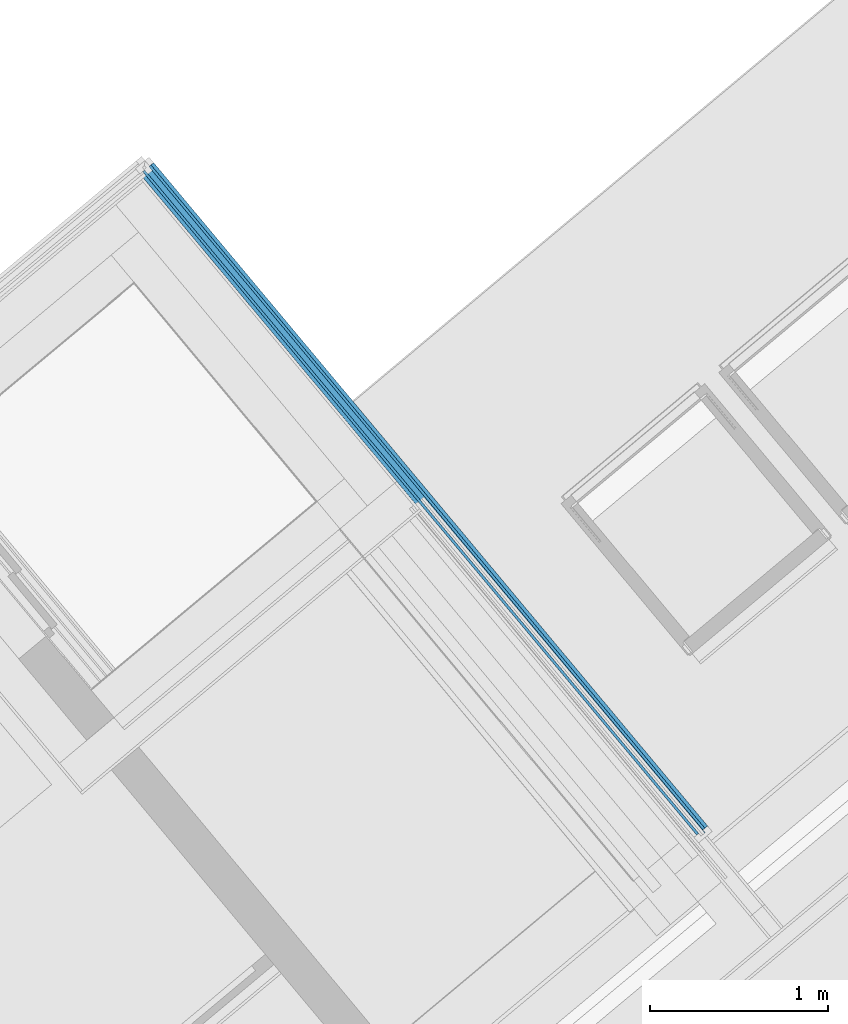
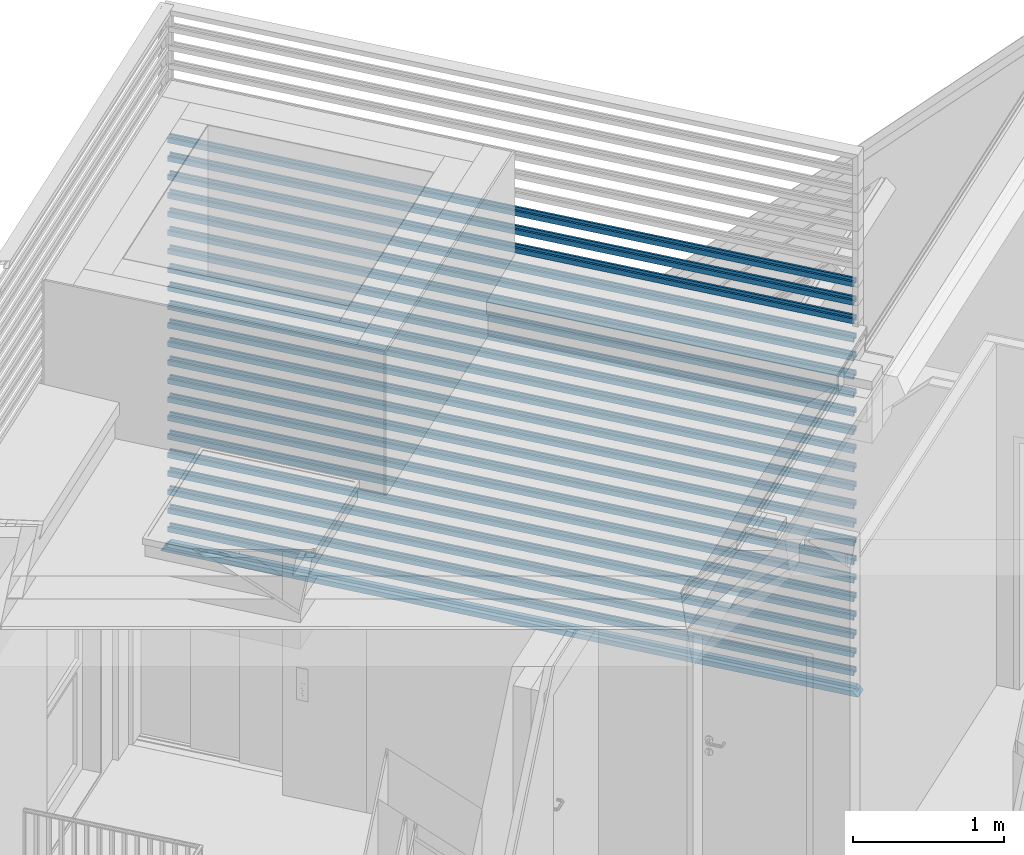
# One storey, part 30 of 50: 23 building element parts, 1 element without a shape of its own.
"""IFC4 building model written with IfcOpenShell, lengths in metres."""

from ifc_helpers import new_model, entity, si_unit, converted_unit, derived_unit, direction, frame, origin_with_axes, place, context, subcontext, project, spatial, polygons, material, type_object, element, aggregate, save


model = new_model("IFC4")

# Units and contexts
model_context = context("Model", 3, precision=1e-05, world=origin_with_axes(), true_north=direction((0.0, 1.0)))
body_context = subcontext(model_context, "Body", "Model", "MODEL_VIEW")
ifc_project = project(units=[si_unit("LENGTHUNIT", "METRE"), si_unit("AREAUNIT", "SQUARE_METRE"), si_unit("VOLUMEUNIT", "CUBIC_METRE"), converted_unit("PLANEANGLEUNIT", "DEGREE", entity("IfcPlaneAngleMeasure", 0.0174532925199), si_unit("PLANEANGLEUNIT", "RADIAN"), dimensions=[0, 0, 0, 0, 0, 0, 0]), converted_unit("TIMEUNIT", "Year", entity("IfcTimeMeasure", 31556926.0), si_unit("TIMEUNIT", "SECOND"), dimensions=[0, 0, 1, 0, 0, 0, 0]), si_unit("MASSUNIT", "GRAM", prefix="KILO"), si_unit("THERMODYNAMICTEMPERATUREUNIT", "DEGREE_CELSIUS"), si_unit("LUMINOUSINTENSITYUNIT", "LUMEN"), si_unit("ENERGYUNIT", "JOULE", prefix="MEGA"), derived_unit("THERMALCONDUCTANCEUNIT", [(si_unit("POWERUNIT", "WATT"), 1), (si_unit("LENGTHUNIT", "METRE"), -1), (si_unit("THERMODYNAMICTEMPERATUREUNIT", "KELVIN"), -1)]), derived_unit("SPECIFICHEATCAPACITYUNIT", [(si_unit("ENERGYUNIT", "JOULE"), 1), (si_unit("MASSUNIT", "GRAM", prefix="KILO"), -1), (si_unit("THERMODYNAMICTEMPERATUREUNIT", "KELVIN"), -1)]), derived_unit("MASSDENSITYUNIT", [(si_unit("MASSUNIT", "GRAM", prefix="KILO"), 1), (si_unit("VOLUMEUNIT", "CUBIC_METRE"), -1)])], contexts=[model_context])

# Site, building, storey, space
site_placement = place(None, frame((-0.00153261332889, -0.00661245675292, 0.0), z_axis=(0.0, 0.0, 1.0), x_axis=(1.0, 0.0, 0.0)))
site = spatial("IfcSite", under=ifc_project, at=site_placement, Name="Gelände", CompositionType="ELEMENT")
building_placement = place(site_placement, origin_with_axes())
building = spatial("IfcBuilding", under=site, at=building_placement, Name="Gebäude", CompositionType="ELEMENT")
storey_placement = place(building_placement, frame((0.0, 0.0, 8.66), z_axis=(0.0, 0.0, 1.0), x_axis=(1.0, 0.0, 0.0)))
storey = spatial("IfcBuildingStorey", under=building, at=storey_placement, Name="DG2", CompositionType="ELEMENT", Elevation=8.66)
space_placement = place(storey_placement, frame((6.83696947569, 22.4856827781, 0.22), z_axis=(0.0, 0.0, 1.0), x_axis=(0.767365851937, 0.641209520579, 0.0)))
space = spatial("IfcSpace", under=storey, at=space_placement, CompositionType="ELEMENT", PredefinedType="NOTDEFINED")

# Curtain wall, building element parts
curtain_wall_type = type_object("IfcCurtainWallType", Name="Fassadentyp", PredefinedType="NOTDEFINED")
curtain_wall_placement = place(space_placement, frame((-0.611260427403, 4.89750550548, 0.1), z_axis=(0.0, 0.0, 1.0), x_axis=(0.767365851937, -0.641209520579, 0.0)))
curtain_wall = element("IfcCurtainWall", 1, at=curtain_wall_placement, inside=space, type_object=curtain_wall_type, Name="Fassade-001", PredefinedType="NOTDEFINED")
ifc_material = material(Name="Blech")
building_element_part_1_placement = place(curtain_wall_placement, origin_with_axes())
building_element_part_1 = element("IfcBuildingElementPart", 2, at=building_element_part_1_placement, material=ifc_material, Name="Blech", PredefinedType="NOTDEFINED", context=body_context, shape_type="Tessellation", body=[
    polygons([(1.55485923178, -1.88503623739, 0.0), (1.54203854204, -1.86968599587, 0.02), (1.51517561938, -1.8921222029, 0.02), (1.54081699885, -1.92282268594, -0.02), (1.61756820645, -1.85871923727, -0.02), (1.59192682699, -1.82801875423, 0.02), (1.56506390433, -1.85045496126, 0.02), (1.57788459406, -1.86580520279, 0.0), (-1.57788459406, 1.86580520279, 0.0), (-1.56506390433, 1.85045496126, 0.02), (-1.59192682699, 1.82801875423, 0.02), (-1.61756820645, 1.85871923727, -0.02), (-1.54081699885, 1.92282268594, -0.02), (-1.51517561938, 1.8921222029, 0.02), (-1.54203854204, 1.86968599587, 0.02), (-1.55485923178, 1.88503623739, 0.0)], [[[1, 2, 3, 4, 5, 6, 7, 8]], [[1, 9, 10, 2]], [[10, 11, 3, 2]], [[3, 11, 12, 4]], [[4, 12, 13, 5]], [[5, 13, 14, 6]], [[7, 6, 14, 15]], [[15, 16, 8, 7]], [[8, 16, 9, 1]], [[9, 16, 15, 14, 13, 12, 11, 10]]], closed=True),
])
building_element_part_2_placement = place(curtain_wall_placement, origin_with_axes())
building_element_part_2 = element("IfcBuildingElementPart", 3, at=building_element_part_2_placement, material=ifc_material, Name="Blech", PredefinedType="NOTDEFINED", context=body_context, shape_type="Tessellation", body=[
    polygons([(-1.56506390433, 1.85045496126, 0.15), (-1.56506390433, 1.85045496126, 0.17), (1.54203854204, -1.86968599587, 0.17), (1.54203854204, -1.86968599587, 0.15), (1.54203854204, -1.86968599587, 0.13), (-1.56506390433, 1.85045496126, 0.13), (-1.57657658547, 1.84083944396, 0.13), (-1.57657658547, 1.84083944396, 0.17), (1.5305258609, -1.87930151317, 0.17), (1.5305258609, -1.87930151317, 0.13)], [[[1, 2, 3, 4, 5, 6]], [[6, 7, 8, 2, 1]], [[3, 2, 8, 9]], [[4, 3, 9, 10, 5]], [[5, 10, 7, 6]], [[10, 9, 8, 7]]], closed=True),
    polygons([(1.56506390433, -1.85045496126, 0.13), (1.57657658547, -1.84083944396, 0.13), (1.57657658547, -1.84083944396, 0.17), (1.56506390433, -1.85045496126, 0.17), (1.56506390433, -1.85045496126, 0.15), (-1.54203854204, 1.86968599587, 0.13), (-1.5305258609, 1.87930151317, 0.13), (-1.5305258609, 1.87930151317, 0.17), (-1.54203854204, 1.86968599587, 0.17), (-1.54203854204, 1.86968599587, 0.15)], [[[1, 2, 3, 4, 5]], [[6, 7, 2, 1]], [[3, 2, 7, 8]], [[9, 4, 3, 8]], [[5, 4, 9, 10, 6, 1]], [[10, 9, 8, 7, 6]]], closed=True),
])
building_element_part_3_placement = place(curtain_wall_placement, origin_with_axes())
building_element_part_3 = element("IfcBuildingElementPart", 4, at=building_element_part_3_placement, material=ifc_material, Name="Blech", PredefinedType="NOTDEFINED", context=body_context, shape_type="Tessellation", body=[
    polygons([(-1.56506390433, 1.85045496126, 0.3), (-1.56506390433, 1.85045496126, 0.32), (1.54203854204, -1.86968599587, 0.32), (1.54203854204, -1.86968599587, 0.3), (1.54203854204, -1.86968599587, 0.28), (-1.56506390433, 1.85045496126, 0.28), (-1.57657658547, 1.84083944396, 0.28), (-1.57657658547, 1.84083944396, 0.32), (1.5305258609, -1.87930151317, 0.32), (1.5305258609, -1.87930151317, 0.28)], [[[1, 2, 3, 4, 5, 6]], [[6, 7, 8, 2, 1]], [[3, 2, 8, 9]], [[4, 3, 9, 10, 5]], [[5, 10, 7, 6]], [[10, 9, 8, 7]]], closed=True),
    polygons([(1.56506390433, -1.85045496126, 0.28), (1.57657658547, -1.84083944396, 0.28), (1.57657658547, -1.84083944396, 0.32), (1.56506390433, -1.85045496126, 0.32), (1.56506390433, -1.85045496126, 0.3), (-1.54203854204, 1.86968599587, 0.28), (-1.5305258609, 1.87930151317, 0.28), (-1.5305258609, 1.87930151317, 0.32), (-1.54203854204, 1.86968599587, 0.32), (-1.54203854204, 1.86968599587, 0.3)], [[[1, 2, 3, 4, 5]], [[6, 7, 2, 1]], [[3, 2, 7, 8]], [[9, 4, 3, 8]], [[5, 4, 9, 10, 6, 1]], [[10, 9, 8, 7, 6]]], closed=True),
])
building_element_part_4_placement = place(curtain_wall_placement, origin_with_axes())
building_element_part_4 = element("IfcBuildingElementPart", 5, at=building_element_part_4_placement, material=ifc_material, Name="Blech", PredefinedType="NOTDEFINED", context=body_context, shape_type="Tessellation", body=[
    polygons([(-1.56506390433, 1.85045496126, 0.45), (-1.56506390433, 1.85045496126, 0.47), (1.54203854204, -1.86968599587, 0.47), (1.54203854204, -1.86968599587, 0.45), (1.54203854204, -1.86968599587, 0.43), (-1.56506390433, 1.85045496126, 0.43), (-1.57657658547, 1.84083944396, 0.43), (-1.57657658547, 1.84083944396, 0.47), (1.5305258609, -1.87930151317, 0.47), (1.5305258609, -1.87930151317, 0.43)], [[[1, 2, 3, 4, 5, 6]], [[6, 7, 8, 2, 1]], [[3, 2, 8, 9]], [[4, 3, 9, 10, 5]], [[5, 10, 7, 6]], [[10, 9, 8, 7]]], closed=True),
    polygons([(1.56506390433, -1.85045496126, 0.43), (1.57657658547, -1.84083944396, 0.43), (1.57657658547, -1.84083944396, 0.47), (1.56506390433, -1.85045496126, 0.47), (1.56506390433, -1.85045496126, 0.45), (-1.54203854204, 1.86968599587, 0.43), (-1.5305258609, 1.87930151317, 0.43), (-1.5305258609, 1.87930151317, 0.47), (-1.54203854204, 1.86968599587, 0.47), (-1.54203854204, 1.86968599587, 0.45)], [[[1, 2, 3, 4, 5]], [[6, 7, 2, 1]], [[3, 2, 7, 8]], [[9, 4, 3, 8]], [[5, 4, 9, 10, 6, 1]], [[10, 9, 8, 7, 6]]], closed=True),
])
building_element_part_5_placement = place(curtain_wall_placement, origin_with_axes())
building_element_part_5 = element("IfcBuildingElementPart", 6, at=building_element_part_5_placement, material=ifc_material, Name="Blech", PredefinedType="NOTDEFINED", context=body_context, shape_type="Tessellation", body=[
    polygons([(-1.56506390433, 1.85045496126, 0.6), (-1.56506390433, 1.85045496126, 0.62), (1.54203854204, -1.86968599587, 0.62), (1.54203854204, -1.86968599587, 0.6), (1.54203854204, -1.86968599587, 0.58), (-1.56506390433, 1.85045496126, 0.58), (-1.57657658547, 1.84083944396, 0.58), (-1.57657658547, 1.84083944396, 0.62), (1.5305258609, -1.87930151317, 0.62), (1.5305258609, -1.87930151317, 0.58)], [[[1, 2, 3, 4, 5, 6]], [[6, 7, 8, 2, 1]], [[3, 2, 8, 9]], [[4, 3, 9, 10, 5]], [[5, 10, 7, 6]], [[10, 9, 8, 7]]], closed=True),
    polygons([(1.56506390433, -1.85045496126, 0.58), (1.57657658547, -1.84083944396, 0.58), (1.57657658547, -1.84083944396, 0.62), (1.56506390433, -1.85045496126, 0.62), (1.56506390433, -1.85045496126, 0.6), (-1.54203854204, 1.86968599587, 0.58), (-1.5305258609, 1.87930151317, 0.58), (-1.5305258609, 1.87930151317, 0.62), (-1.54203854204, 1.86968599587, 0.62), (-1.54203854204, 1.86968599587, 0.6)], [[[1, 2, 3, 4, 5]], [[6, 7, 2, 1]], [[3, 2, 7, 8]], [[9, 4, 3, 8]], [[5, 4, 9, 10, 6, 1]], [[10, 9, 8, 7, 6]]], closed=True),
])
building_element_part_6_placement = place(curtain_wall_placement, origin_with_axes())
building_element_part_6 = element("IfcBuildingElementPart", 7, at=building_element_part_6_placement, material=ifc_material, Name="Blech", PredefinedType="NOTDEFINED", context=body_context, shape_type="Tessellation", body=[
    polygons([(-1.56506390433, 1.85045496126, 0.75), (-1.56506390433, 1.85045496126, 0.77), (1.54203854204, -1.86968599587, 0.77), (1.54203854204, -1.86968599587, 0.75), (1.54203854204, -1.86968599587, 0.73), (-1.56506390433, 1.85045496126, 0.73), (-1.57657658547, 1.84083944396, 0.73), (-1.57657658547, 1.84083944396, 0.77), (1.5305258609, -1.87930151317, 0.77), (1.5305258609, -1.87930151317, 0.73)], [[[1, 2, 3, 4, 5, 6]], [[6, 7, 8, 2, 1]], [[3, 2, 8, 9]], [[4, 3, 9, 10, 5]], [[5, 10, 7, 6]], [[10, 9, 8, 7]]], closed=True),
    polygons([(1.56506390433, -1.85045496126, 0.73), (1.57657658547, -1.84083944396, 0.73), (1.57657658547, -1.84083944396, 0.77), (1.56506390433, -1.85045496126, 0.77), (1.56506390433, -1.85045496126, 0.75), (-1.54203854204, 1.86968599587, 0.73), (-1.5305258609, 1.87930151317, 0.73), (-1.5305258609, 1.87930151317, 0.77), (-1.54203854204, 1.86968599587, 0.77), (-1.54203854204, 1.86968599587, 0.75)], [[[1, 2, 3, 4, 5]], [[6, 7, 2, 1]], [[3, 2, 7, 8]], [[9, 4, 3, 8]], [[5, 4, 9, 10, 6, 1]], [[10, 9, 8, 7, 6]]], closed=True),
])
building_element_part_7_placement = place(curtain_wall_placement, origin_with_axes())
building_element_part_7 = element("IfcBuildingElementPart", 8, at=building_element_part_7_placement, material=ifc_material, Name="Blech", PredefinedType="NOTDEFINED", context=body_context, shape_type="Tessellation", body=[
    polygons([(-1.56506390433, 1.85045496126, 0.9), (-1.56506390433, 1.85045496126, 0.92), (1.54203854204, -1.86968599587, 0.92), (1.54203854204, -1.86968599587, 0.9), (1.54203854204, -1.86968599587, 0.88), (-1.56506390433, 1.85045496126, 0.88), (-1.57657658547, 1.84083944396, 0.88), (-1.57657658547, 1.84083944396, 0.92), (1.5305258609, -1.87930151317, 0.92), (1.5305258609, -1.87930151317, 0.88)], [[[1, 2, 3, 4, 5, 6]], [[6, 7, 8, 2, 1]], [[3, 2, 8, 9]], [[4, 3, 9, 10, 5]], [[5, 10, 7, 6]], [[10, 9, 8, 7]]], closed=True),
    polygons([(1.56506390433, -1.85045496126, 0.88), (1.57657658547, -1.84083944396, 0.88), (1.57657658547, -1.84083944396, 0.92), (1.56506390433, -1.85045496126, 0.92), (1.56506390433, -1.85045496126, 0.9), (-1.54203854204, 1.86968599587, 0.88), (-1.5305258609, 1.87930151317, 0.88), (-1.5305258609, 1.87930151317, 0.92), (-1.54203854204, 1.86968599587, 0.92), (-1.54203854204, 1.86968599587, 0.9)], [[[1, 2, 3, 4, 5]], [[6, 7, 2, 1]], [[3, 2, 7, 8]], [[9, 4, 3, 8]], [[5, 4, 9, 10, 6, 1]], [[10, 9, 8, 7, 6]]], closed=True),
])
building_element_part_8_placement = place(curtain_wall_placement, origin_with_axes())
building_element_part_8 = element("IfcBuildingElementPart", 9, at=building_element_part_8_placement, material=ifc_material, Name="Blech", PredefinedType="NOTDEFINED", context=body_context, shape_type="Tessellation", body=[
    polygons([(-1.56506390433, 1.85045496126, 1.05), (-1.56506390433, 1.85045496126, 1.07), (1.54203854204, -1.86968599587, 1.07), (1.54203854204, -1.86968599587, 1.05), (1.54203854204, -1.86968599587, 1.03), (-1.56506390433, 1.85045496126, 1.03), (-1.57657658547, 1.84083944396, 1.03), (-1.57657658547, 1.84083944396, 1.07), (1.5305258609, -1.87930151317, 1.07), (1.5305258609, -1.87930151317, 1.03)], [[[1, 2, 3, 4, 5, 6]], [[6, 7, 8, 2, 1]], [[3, 2, 8, 9]], [[4, 3, 9, 10, 5]], [[5, 10, 7, 6]], [[10, 9, 8, 7]]], closed=True),
    polygons([(1.56506390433, -1.85045496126, 1.03), (1.57657658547, -1.84083944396, 1.03), (1.57657658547, -1.84083944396, 1.07), (1.56506390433, -1.85045496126, 1.07), (1.56506390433, -1.85045496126, 1.05), (-1.54203854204, 1.86968599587, 1.03), (-1.5305258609, 1.87930151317, 1.03), (-1.5305258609, 1.87930151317, 1.07), (-1.54203854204, 1.86968599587, 1.07), (-1.54203854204, 1.86968599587, 1.05)], [[[1, 2, 3, 4, 5]], [[6, 7, 2, 1]], [[3, 2, 7, 8]], [[9, 4, 3, 8]], [[5, 4, 9, 10, 6, 1]], [[10, 9, 8, 7, 6]]], closed=True),
])
building_element_part_9_placement = place(curtain_wall_placement, origin_with_axes())
building_element_part_9 = element("IfcBuildingElementPart", 10, at=building_element_part_9_placement, material=ifc_material, Name="Blech", PredefinedType="NOTDEFINED", context=body_context, shape_type="Tessellation", body=[
    polygons([(-1.56506390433, 1.85045496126, 1.2), (-1.56506390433, 1.85045496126, 1.22), (1.54203854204, -1.86968599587, 1.22), (1.54203854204, -1.86968599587, 1.2), (1.54203854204, -1.86968599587, 1.18), (-1.56506390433, 1.85045496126, 1.18), (-1.57657658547, 1.84083944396, 1.18), (-1.57657658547, 1.84083944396, 1.22), (1.5305258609, -1.87930151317, 1.22), (1.5305258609, -1.87930151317, 1.18)], [[[1, 2, 3, 4, 5, 6]], [[6, 7, 8, 2, 1]], [[3, 2, 8, 9]], [[4, 3, 9, 10, 5]], [[5, 10, 7, 6]], [[10, 9, 8, 7]]], closed=True),
    polygons([(1.56506390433, -1.85045496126, 1.18), (1.57657658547, -1.84083944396, 1.18), (1.57657658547, -1.84083944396, 1.22), (1.56506390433, -1.85045496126, 1.22), (1.56506390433, -1.85045496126, 1.2), (-1.54203854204, 1.86968599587, 1.18), (-1.5305258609, 1.87930151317, 1.18), (-1.5305258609, 1.87930151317, 1.22), (-1.54203854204, 1.86968599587, 1.22), (-1.54203854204, 1.86968599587, 1.2)], [[[1, 2, 3, 4, 5]], [[6, 7, 2, 1]], [[3, 2, 7, 8]], [[9, 4, 3, 8]], [[5, 4, 9, 10, 6, 1]], [[10, 9, 8, 7, 6]]], closed=True),
])
building_element_part_10_placement = place(curtain_wall_placement, origin_with_axes())
building_element_part_10 = element("IfcBuildingElementPart", 11, at=building_element_part_10_placement, material=ifc_material, Name="Blech", PredefinedType="NOTDEFINED", context=body_context, shape_type="Tessellation", body=[
    polygons([(-1.56506390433, 1.85045496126, 1.35), (-1.56506390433, 1.85045496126, 1.37), (1.54203854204, -1.86968599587, 1.37), (1.54203854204, -1.86968599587, 1.35), (1.54203854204, -1.86968599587, 1.33), (-1.56506390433, 1.85045496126, 1.33), (-1.57657658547, 1.84083944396, 1.33), (-1.57657658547, 1.84083944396, 1.37), (1.5305258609, -1.87930151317, 1.37), (1.5305258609, -1.87930151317, 1.33)], [[[1, 2, 3, 4, 5, 6]], [[6, 7, 8, 2, 1]], [[3, 2, 8, 9]], [[4, 3, 9, 10, 5]], [[5, 10, 7, 6]], [[10, 9, 8, 7]]], closed=True),
    polygons([(1.56506390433, -1.85045496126, 1.33), (1.57657658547, -1.84083944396, 1.33), (1.57657658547, -1.84083944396, 1.37), (1.56506390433, -1.85045496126, 1.37), (1.56506390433, -1.85045496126, 1.35), (-1.54203854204, 1.86968599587, 1.33), (-1.5305258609, 1.87930151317, 1.33), (-1.5305258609, 1.87930151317, 1.37), (-1.54203854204, 1.86968599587, 1.37), (-1.54203854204, 1.86968599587, 1.35)], [[[1, 2, 3, 4, 5]], [[6, 7, 2, 1]], [[3, 2, 7, 8]], [[9, 4, 3, 8]], [[5, 4, 9, 10, 6, 1]], [[10, 9, 8, 7, 6]]], closed=True),
])
building_element_part_11_placement = place(curtain_wall_placement, origin_with_axes())
building_element_part_11 = element("IfcBuildingElementPart", 12, at=building_element_part_11_placement, material=ifc_material, Name="Blech", PredefinedType="NOTDEFINED", context=body_context, shape_type="Tessellation", body=[
    polygons([(-1.56506390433, 1.85045496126, 1.5), (-1.56506390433, 1.85045496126, 1.52), (1.54203854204, -1.86968599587, 1.52), (1.54203854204, -1.86968599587, 1.5), (1.54203854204, -1.86968599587, 1.48), (-1.56506390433, 1.85045496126, 1.48), (-1.57657658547, 1.84083944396, 1.48), (-1.57657658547, 1.84083944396, 1.52), (1.5305258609, -1.87930151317, 1.52), (1.5305258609, -1.87930151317, 1.48)], [[[1, 2, 3, 4, 5, 6]], [[6, 7, 8, 2, 1]], [[3, 2, 8, 9]], [[4, 3, 9, 10, 5]], [[5, 10, 7, 6]], [[10, 9, 8, 7]]], closed=True),
    polygons([(1.56506390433, -1.85045496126, 1.48), (1.57657658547, -1.84083944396, 1.48), (1.57657658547, -1.84083944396, 1.52), (1.56506390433, -1.85045496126, 1.52), (1.56506390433, -1.85045496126, 1.5), (-1.54203854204, 1.86968599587, 1.48), (-1.5305258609, 1.87930151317, 1.48), (-1.5305258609, 1.87930151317, 1.52), (-1.54203854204, 1.86968599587, 1.52), (-1.54203854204, 1.86968599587, 1.5)], [[[1, 2, 3, 4, 5]], [[6, 7, 2, 1]], [[3, 2, 7, 8]], [[9, 4, 3, 8]], [[5, 4, 9, 10, 6, 1]], [[10, 9, 8, 7, 6]]], closed=True),
])
building_element_part_12_placement = place(curtain_wall_placement, origin_with_axes())
building_element_part_12 = element("IfcBuildingElementPart", 13, at=building_element_part_12_placement, material=ifc_material, Name="Blech", PredefinedType="NOTDEFINED", context=body_context, shape_type="Tessellation", body=[
    polygons([(-1.56506390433, 1.85045496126, 1.65), (-1.56506390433, 1.85045496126, 1.67), (1.54203854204, -1.86968599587, 1.67), (1.54203854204, -1.86968599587, 1.65), (1.54203854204, -1.86968599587, 1.63), (-1.56506390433, 1.85045496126, 1.63), (-1.57657658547, 1.84083944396, 1.63), (-1.57657658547, 1.84083944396, 1.67), (1.5305258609, -1.87930151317, 1.67), (1.5305258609, -1.87930151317, 1.63)], [[[1, 2, 3, 4, 5, 6]], [[6, 7, 8, 2, 1]], [[3, 2, 8, 9]], [[4, 3, 9, 10, 5]], [[5, 10, 7, 6]], [[10, 9, 8, 7]]], closed=True),
    polygons([(1.56506390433, -1.85045496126, 1.63), (1.57657658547, -1.84083944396, 1.63), (1.57657658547, -1.84083944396, 1.67), (1.56506390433, -1.85045496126, 1.67), (1.56506390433, -1.85045496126, 1.65), (-1.54203854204, 1.86968599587, 1.63), (-1.5305258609, 1.87930151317, 1.63), (-1.5305258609, 1.87930151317, 1.67), (-1.54203854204, 1.86968599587, 1.67), (-1.54203854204, 1.86968599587, 1.65)], [[[1, 2, 3, 4, 5]], [[6, 7, 2, 1]], [[3, 2, 7, 8]], [[9, 4, 3, 8]], [[5, 4, 9, 10, 6, 1]], [[10, 9, 8, 7, 6]]], closed=True),
])
building_element_part_13_placement = place(curtain_wall_placement, origin_with_axes())
building_element_part_13 = element("IfcBuildingElementPart", 14, at=building_element_part_13_placement, material=ifc_material, Name="Blech", PredefinedType="NOTDEFINED", context=body_context, shape_type="Tessellation", body=[
    polygons([(-1.56506390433, 1.85045496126, 1.8), (-1.56506390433, 1.85045496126, 1.82), (1.54203854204, -1.86968599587, 1.82), (1.54203854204, -1.86968599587, 1.8), (1.54203854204, -1.86968599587, 1.78), (-1.56506390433, 1.85045496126, 1.78), (-1.57657658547, 1.84083944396, 1.78), (-1.57657658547, 1.84083944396, 1.82), (1.5305258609, -1.87930151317, 1.82), (1.5305258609, -1.87930151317, 1.78)], [[[1, 2, 3, 4, 5, 6]], [[6, 7, 8, 2, 1]], [[3, 2, 8, 9]], [[4, 3, 9, 10, 5]], [[5, 10, 7, 6]], [[10, 9, 8, 7]]], closed=True),
    polygons([(1.56506390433, -1.85045496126, 1.78), (1.57657658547, -1.84083944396, 1.78), (1.57657658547, -1.84083944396, 1.82), (1.56506390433, -1.85045496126, 1.82), (1.56506390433, -1.85045496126, 1.8), (-1.54203854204, 1.86968599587, 1.78), (-1.5305258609, 1.87930151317, 1.78), (-1.5305258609, 1.87930151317, 1.82), (-1.54203854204, 1.86968599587, 1.82), (-1.54203854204, 1.86968599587, 1.8)], [[[1, 2, 3, 4, 5]], [[6, 7, 2, 1]], [[3, 2, 7, 8]], [[9, 4, 3, 8]], [[5, 4, 9, 10, 6, 1]], [[10, 9, 8, 7, 6]]], closed=True),
])
building_element_part_14_placement = place(curtain_wall_placement, origin_with_axes())
building_element_part_14 = element("IfcBuildingElementPart", 15, at=building_element_part_14_placement, material=ifc_material, Name="Blech", PredefinedType="NOTDEFINED", context=body_context, shape_type="Tessellation", body=[
    polygons([(-1.56506390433, 1.85045496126, 1.95), (-1.56506390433, 1.85045496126, 1.97), (1.54203854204, -1.86968599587, 1.97), (1.54203854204, -1.86968599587, 1.95), (1.54203854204, -1.86968599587, 1.93), (-1.56506390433, 1.85045496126, 1.93), (-1.57657658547, 1.84083944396, 1.93), (-1.57657658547, 1.84083944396, 1.97), (1.5305258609, -1.87930151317, 1.97), (1.5305258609, -1.87930151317, 1.93)], [[[1, 2, 3, 4, 5, 6]], [[6, 7, 8, 2, 1]], [[3, 2, 8, 9]], [[4, 3, 9, 10, 5]], [[5, 10, 7, 6]], [[10, 9, 8, 7]]], closed=True),
    polygons([(1.56506390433, -1.85045496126, 1.93), (1.57657658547, -1.84083944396, 1.93), (1.57657658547, -1.84083944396, 1.97), (1.56506390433, -1.85045496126, 1.97), (1.56506390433, -1.85045496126, 1.95), (-1.54203854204, 1.86968599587, 1.93), (-1.5305258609, 1.87930151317, 1.93), (-1.5305258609, 1.87930151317, 1.97), (-1.54203854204, 1.86968599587, 1.97), (-1.54203854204, 1.86968599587, 1.95)], [[[1, 2, 3, 4, 5]], [[6, 7, 2, 1]], [[3, 2, 7, 8]], [[9, 4, 3, 8]], [[5, 4, 9, 10, 6, 1]], [[10, 9, 8, 7, 6]]], closed=True),
])
building_element_part_15_placement = place(curtain_wall_placement, origin_with_axes())
building_element_part_15 = element("IfcBuildingElementPart", 16, at=building_element_part_15_placement, material=ifc_material, Name="Blech", PredefinedType="NOTDEFINED", context=body_context, shape_type="Tessellation", body=[
    polygons([(-1.56506390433, 1.85045496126, 2.1), (-1.56506390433, 1.85045496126, 2.12), (1.54203854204, -1.86968599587, 2.12), (1.54203854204, -1.86968599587, 2.1), (1.54203854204, -1.86968599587, 2.08), (-1.56506390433, 1.85045496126, 2.08), (-1.57657658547, 1.84083944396, 2.08), (-1.57657658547, 1.84083944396, 2.12), (1.5305258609, -1.87930151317, 2.12), (1.5305258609, -1.87930151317, 2.08)], [[[1, 2, 3, 4, 5, 6]], [[6, 7, 8, 2, 1]], [[3, 2, 8, 9]], [[4, 3, 9, 10, 5]], [[5, 10, 7, 6]], [[10, 9, 8, 7]]], closed=True),
    polygons([(1.56506390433, -1.85045496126, 2.08), (1.57657658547, -1.84083944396, 2.08), (1.57657658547, -1.84083944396, 2.12), (1.56506390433, -1.85045496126, 2.12), (1.56506390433, -1.85045496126, 2.1), (-1.54203854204, 1.86968599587, 2.08), (-1.5305258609, 1.87930151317, 2.08), (-1.5305258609, 1.87930151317, 2.12), (-1.54203854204, 1.86968599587, 2.12), (-1.54203854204, 1.86968599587, 2.1)], [[[1, 2, 3, 4, 5]], [[6, 7, 2, 1]], [[3, 2, 7, 8]], [[9, 4, 3, 8]], [[5, 4, 9, 10, 6, 1]], [[10, 9, 8, 7, 6]]], closed=True),
])
building_element_part_16_placement = place(curtain_wall_placement, origin_with_axes())
building_element_part_16 = element("IfcBuildingElementPart", 17, at=building_element_part_16_placement, material=ifc_material, Name="Blech", PredefinedType="NOTDEFINED", context=body_context, shape_type="Tessellation", body=[
    polygons([(-1.56506390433, 1.85045496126, 2.25), (-1.56506390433, 1.85045496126, 2.27), (1.54203854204, -1.86968599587, 2.27), (1.54203854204, -1.86968599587, 2.25), (1.54203854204, -1.86968599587, 2.23), (-1.56506390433, 1.85045496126, 2.23), (-1.57657658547, 1.84083944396, 2.23), (-1.57657658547, 1.84083944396, 2.27), (1.5305258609, -1.87930151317, 2.27), (1.5305258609, -1.87930151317, 2.23)], [[[1, 2, 3, 4, 5, 6]], [[6, 7, 8, 2, 1]], [[3, 2, 8, 9]], [[4, 3, 9, 10, 5]], [[5, 10, 7, 6]], [[10, 9, 8, 7]]], closed=True),
    polygons([(1.56506390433, -1.85045496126, 2.23), (1.57657658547, -1.84083944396, 2.23), (1.57657658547, -1.84083944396, 2.27), (1.56506390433, -1.85045496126, 2.27), (1.56506390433, -1.85045496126, 2.25), (-1.54203854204, 1.86968599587, 2.23), (-1.5305258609, 1.87930151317, 2.23), (-1.5305258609, 1.87930151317, 2.27), (-1.54203854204, 1.86968599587, 2.27), (-1.54203854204, 1.86968599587, 2.25)], [[[1, 2, 3, 4, 5]], [[6, 7, 2, 1]], [[3, 2, 7, 8]], [[9, 4, 3, 8]], [[5, 4, 9, 10, 6, 1]], [[10, 9, 8, 7, 6]]], closed=True),
])
building_element_part_17_placement = place(curtain_wall_placement, origin_with_axes())
building_element_part_17 = element("IfcBuildingElementPart", 18, at=building_element_part_17_placement, material=ifc_material, Name="Blech", PredefinedType="NOTDEFINED", context=body_context, shape_type="Tessellation", body=[
    polygons([(-1.56506390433, 1.85045496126, 2.4), (-1.56506390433, 1.85045496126, 2.42), (1.54203854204, -1.86968599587, 2.42), (1.54203854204, -1.86968599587, 2.4), (1.54203854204, -1.86968599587, 2.38), (-1.56506390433, 1.85045496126, 2.38), (-1.57657658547, 1.84083944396, 2.38), (-1.57657658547, 1.84083944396, 2.42), (1.5305258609, -1.87930151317, 2.42), (1.5305258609, -1.87930151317, 2.38)], [[[1, 2, 3, 4, 5, 6]], [[6, 7, 8, 2, 1]], [[3, 2, 8, 9]], [[4, 3, 9, 10, 5]], [[5, 10, 7, 6]], [[10, 9, 8, 7]]], closed=True),
    polygons([(1.56506390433, -1.85045496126, 2.38), (1.57657658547, -1.84083944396, 2.38), (1.57657658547, -1.84083944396, 2.42), (1.56506390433, -1.85045496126, 2.42), (1.56506390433, -1.85045496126, 2.4), (-1.54203854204, 1.86968599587, 2.38), (-1.5305258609, 1.87930151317, 2.38), (-1.5305258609, 1.87930151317, 2.42), (-1.54203854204, 1.86968599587, 2.42), (-1.54203854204, 1.86968599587, 2.4)], [[[1, 2, 3, 4, 5]], [[6, 7, 2, 1]], [[3, 2, 7, 8]], [[9, 4, 3, 8]], [[5, 4, 9, 10, 6, 1]], [[10, 9, 8, 7, 6]]], closed=True),
])
building_element_part_18_placement = place(curtain_wall_placement, origin_with_axes())
building_element_part_18 = element("IfcBuildingElementPart", 19, at=building_element_part_18_placement, material=ifc_material, Name="Blech", PredefinedType="NOTDEFINED", context=body_context, shape_type="Tessellation", body=[
    polygons([(-1.56506390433, 1.85045496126, 2.55), (-1.56506390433, 1.85045496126, 2.57), (1.54203854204, -1.86968599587, 2.57), (1.54203854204, -1.86968599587, 2.55), (1.54203854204, -1.86968599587, 2.53), (-1.56506390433, 1.85045496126, 2.53), (-1.57657658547, 1.84083944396, 2.53), (-1.57657658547, 1.84083944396, 2.57), (1.5305258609, -1.87930151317, 2.57), (1.5305258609, -1.87930151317, 2.53)], [[[1, 2, 3, 4, 5, 6]], [[6, 7, 8, 2, 1]], [[3, 2, 8, 9]], [[4, 3, 9, 10, 5]], [[5, 10, 7, 6]], [[10, 9, 8, 7]]], closed=True),
    polygons([(1.56506390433, -1.85045496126, 2.53), (1.57657658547, -1.84083944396, 2.53), (1.57657658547, -1.84083944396, 2.57), (1.56506390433, -1.85045496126, 2.57), (1.56506390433, -1.85045496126, 2.55), (-1.54203854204, 1.86968599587, 2.53), (-1.5305258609, 1.87930151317, 2.53), (-1.5305258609, 1.87930151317, 2.57), (-1.54203854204, 1.86968599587, 2.57), (-1.54203854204, 1.86968599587, 2.55)], [[[1, 2, 3, 4, 5]], [[6, 7, 2, 1]], [[3, 2, 7, 8]], [[9, 4, 3, 8]], [[5, 4, 9, 10, 6, 1]], [[10, 9, 8, 7, 6]]], closed=True),
])
building_element_part_19_placement = place(curtain_wall_placement, origin_with_axes())
building_element_part_19 = element("IfcBuildingElementPart", 20, at=building_element_part_19_placement, material=ifc_material, Name="Blech", PredefinedType="NOTDEFINED", context=body_context, shape_type="Tessellation", body=[
    polygons([(-1.56506390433, 1.85045496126, 2.7), (-1.56506390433, 1.85045496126, 2.72), (1.54203854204, -1.86968599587, 2.72), (1.54203854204, -1.86968599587, 2.7), (1.54203854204, -1.86968599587, 2.68), (-1.56506390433, 1.85045496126, 2.68), (-1.57657658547, 1.84083944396, 2.68), (-1.57657658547, 1.84083944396, 2.72), (1.5305258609, -1.87930151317, 2.72), (1.5305258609, -1.87930151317, 2.68)], [[[1, 2, 3, 4, 5, 6]], [[6, 7, 8, 2, 1]], [[3, 2, 8, 9]], [[4, 3, 9, 10, 5]], [[5, 10, 7, 6]], [[10, 9, 8, 7]]], closed=True),
    polygons([(1.56506390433, -1.85045496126, 2.68), (1.57657658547, -1.84083944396, 2.68), (1.57657658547, -1.84083944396, 2.72), (1.56506390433, -1.85045496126, 2.72), (1.56506390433, -1.85045496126, 2.7), (-1.54203854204, 1.86968599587, 2.68), (-1.5305258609, 1.87930151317, 2.68), (-1.5305258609, 1.87930151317, 2.72), (-1.54203854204, 1.86968599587, 2.72), (-1.54203854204, 1.86968599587, 2.7)], [[[1, 2, 3, 4, 5]], [[6, 7, 2, 1]], [[3, 2, 7, 8]], [[9, 4, 3, 8]], [[5, 4, 9, 10, 6, 1]], [[10, 9, 8, 7, 6]]], closed=True),
])
building_element_part_20_placement = place(curtain_wall_placement, origin_with_axes())
building_element_part_20 = element("IfcBuildingElementPart", 21, at=building_element_part_20_placement, material=ifc_material, Name="Blech", PredefinedType="NOTDEFINED", context=body_context, shape_type="Tessellation", body=[
    polygons([(-1.56506390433, 1.85045496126, 2.85), (-1.56506390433, 1.85045496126, 2.87), (1.54203854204, -1.86968599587, 2.87), (1.54203854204, -1.86968599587, 2.85), (1.54203854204, -1.86968599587, 2.83), (-1.56506390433, 1.85045496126, 2.83), (-1.57657658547, 1.84083944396, 2.83), (-1.57657658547, 1.84083944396, 2.87), (1.5305258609, -1.87930151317, 2.87), (1.5305258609, -1.87930151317, 2.83)], [[[1, 2, 3, 4, 5, 6]], [[6, 7, 8, 2, 1]], [[3, 2, 8, 9]], [[4, 3, 9, 10, 5]], [[5, 10, 7, 6]], [[10, 9, 8, 7]]], closed=True),
    polygons([(1.56506390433, -1.85045496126, 2.83), (1.57657658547, -1.84083944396, 2.83), (1.57657658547, -1.84083944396, 2.87), (1.56506390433, -1.85045496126, 2.87), (1.56506390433, -1.85045496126, 2.85), (-1.54203854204, 1.86968599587, 2.83), (-1.5305258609, 1.87930151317, 2.83), (-1.5305258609, 1.87930151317, 2.87), (-1.54203854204, 1.86968599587, 2.87), (-1.54203854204, 1.86968599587, 2.85)], [[[1, 2, 3, 4, 5]], [[6, 7, 2, 1]], [[3, 2, 7, 8]], [[9, 4, 3, 8]], [[5, 4, 9, 10, 6, 1]], [[10, 9, 8, 7, 6]]], closed=True),
])
building_element_part_21_placement = place(curtain_wall_placement, origin_with_axes())
building_element_part_21 = element("IfcBuildingElementPart", 22, at=building_element_part_21_placement, material=ifc_material, Name="Blech", PredefinedType="NOTDEFINED", context=body_context, shape_type="Tessellation", body=[
    polygons([(-1.56506390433, 1.85045496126, 3.0), (-1.56506390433, 1.85045496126, 3.02), (1.54203854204, -1.86968599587, 3.02), (1.54203854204, -1.86968599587, 3.0), (1.54203854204, -1.86968599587, 2.98), (-1.56506390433, 1.85045496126, 2.98), (-1.57657658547, 1.84083944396, 2.98), (-1.57657658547, 1.84083944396, 3.02), (1.5305258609, -1.87930151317, 3.02), (1.5305258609, -1.87930151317, 2.98)], [[[1, 2, 3, 4, 5, 6]], [[6, 7, 8, 2, 1]], [[3, 2, 8, 9]], [[4, 3, 9, 10, 5]], [[5, 10, 7, 6]], [[10, 9, 8, 7]]], closed=True),
    polygons([(1.56506390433, -1.85045496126, 2.98), (1.57657658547, -1.84083944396, 2.98), (1.57657658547, -1.84083944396, 3.02), (1.56506390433, -1.85045496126, 3.02), (1.56506390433, -1.85045496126, 3.0), (-1.54203854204, 1.86968599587, 2.98), (-1.5305258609, 1.87930151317, 2.98), (-1.5305258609, 1.87930151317, 3.02), (-1.54203854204, 1.86968599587, 3.02), (-1.54203854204, 1.86968599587, 3.0)], [[[1, 2, 3, 4, 5]], [[6, 7, 2, 1]], [[3, 2, 7, 8]], [[9, 4, 3, 8]], [[5, 4, 9, 10, 6, 1]], [[10, 9, 8, 7, 6]]], closed=True),
])
building_element_part_22_placement = place(curtain_wall_placement, origin_with_axes())
building_element_part_22 = element("IfcBuildingElementPart", 23, at=building_element_part_22_placement, material=ifc_material, Name="Blech", PredefinedType="NOTDEFINED", context=body_context, shape_type="Tessellation", body=[
    polygons([(-1.56506390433, 1.85045496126, 3.15), (-1.56506390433, 1.85045496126, 3.17), (1.54203854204, -1.86968599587, 3.17), (1.54203854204, -1.86968599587, 3.15), (1.54203854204, -1.86968599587, 3.13), (-1.56506390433, 1.85045496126, 3.13), (-1.57657658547, 1.84083944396, 3.13), (-1.57657658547, 1.84083944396, 3.17), (1.5305258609, -1.87930151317, 3.17), (1.5305258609, -1.87930151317, 3.13)], [[[1, 2, 3, 4, 5, 6]], [[6, 7, 8, 2, 1]], [[3, 2, 8, 9]], [[4, 3, 9, 10, 5]], [[5, 10, 7, 6]], [[10, 9, 8, 7]]], closed=True),
    polygons([(1.56506390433, -1.85045496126, 3.13), (1.57657658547, -1.84083944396, 3.13), (1.57657658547, -1.84083944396, 3.17), (1.56506390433, -1.85045496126, 3.17), (1.56506390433, -1.85045496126, 3.15), (-1.54203854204, 1.86968599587, 3.13), (-1.5305258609, 1.87930151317, 3.13), (-1.5305258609, 1.87930151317, 3.17), (-1.54203854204, 1.86968599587, 3.17), (-1.54203854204, 1.86968599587, 3.15)], [[[1, 2, 3, 4, 5]], [[6, 7, 2, 1]], [[3, 2, 7, 8]], [[9, 4, 3, 8]], [[5, 4, 9, 10, 6, 1]], [[10, 9, 8, 7, 6]]], closed=True),
])
building_element_part_23_placement = place(curtain_wall_placement, origin_with_axes())
building_element_part_23 = element("IfcBuildingElementPart", 24, at=building_element_part_23_placement, material=ifc_material, Name="Blech", PredefinedType="NOTDEFINED", context=body_context, shape_type="Tessellation", body=[
    polygons([(-1.56506390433, 1.85045496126, 3.3), (-1.56506390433, 1.85045496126, 3.32), (1.54203854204, -1.86968599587, 3.32), (1.54203854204, -1.86968599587, 3.3), (1.54203854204, -1.86968599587, 3.28), (-1.56506390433, 1.85045496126, 3.28), (-1.57657658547, 1.84083944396, 3.28), (-1.57657658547, 1.84083944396, 3.32), (1.5305258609, -1.87930151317, 3.32), (1.5305258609, -1.87930151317, 3.28)], [[[1, 2, 3, 4, 5, 6]], [[6, 7, 8, 2, 1]], [[3, 2, 8, 9]], [[4, 3, 9, 10, 5]], [[5, 10, 7, 6]], [[10, 9, 8, 7]]], closed=True),
    polygons([(1.56506390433, -1.85045496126, 3.28), (1.57657658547, -1.84083944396, 3.28), (1.57657658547, -1.84083944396, 3.32), (1.56506390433, -1.85045496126, 3.32), (1.56506390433, -1.85045496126, 3.3), (-1.54203854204, 1.86968599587, 3.28), (-1.5305258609, 1.87930151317, 3.28), (-1.5305258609, 1.87930151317, 3.32), (-1.54203854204, 1.86968599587, 3.32), (-1.54203854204, 1.86968599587, 3.3)], [[[1, 2, 3, 4, 5]], [[6, 7, 2, 1]], [[3, 2, 7, 8]], [[9, 4, 3, 8]], [[5, 4, 9, 10, 6, 1]], [[10, 9, 8, 7, 6]]], closed=True),
])
aggregate(curtain_wall, [building_element_part_1, building_element_part_2, building_element_part_3, building_element_part_4, building_element_part_5, building_element_part_6, building_element_part_7, building_element_part_8, building_element_part_9, building_element_part_10, building_element_part_11, building_element_part_12, building_element_part_13, building_element_part_14, building_element_part_15, building_element_part_16, building_element_part_17, building_element_part_18, building_element_part_19, building_element_part_20, building_element_part_21, building_element_part_22, building_element_part_23])

save(model, "model.ifc")
